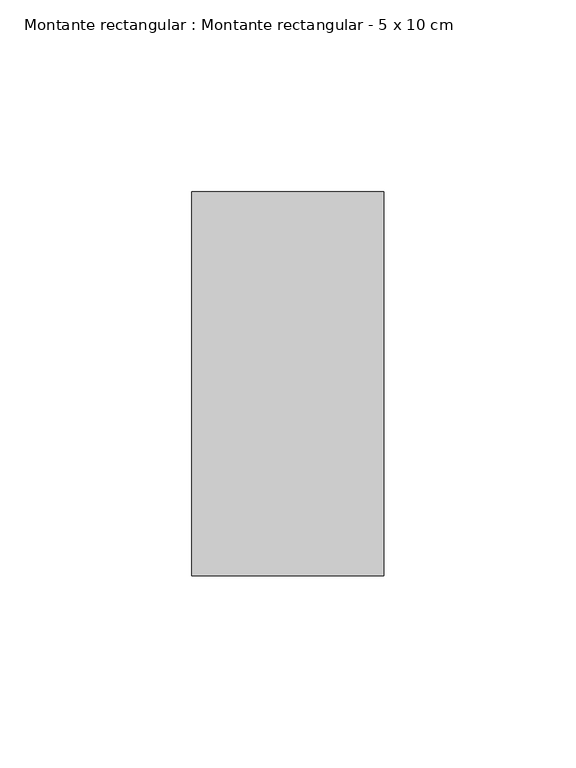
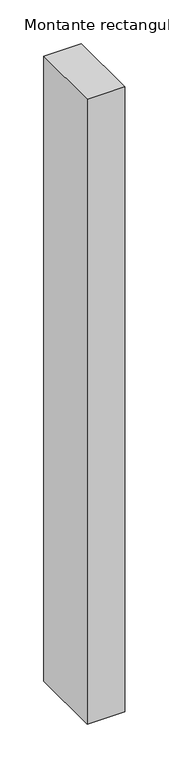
"""IFC4 building model written with IfcOpenShell, lengths in millimetres: member geometry, Montante rectangular : Montante rectangular - 5 x 10 cm."""

from ifc_helpers import new_model, si_unit, frame, origin, place, context, project, spatial, polyline, outline, extrude, source, transform, mapped, element, save


def montante_rectangular_montante_rectangular_5_x_10_cm_b9b9d68b(model_context):
    return source(origin(), model_context, "Body", "SweptSolid", [
        extrude(outline(polyline([(-50.0, 50.0), (0.0, 50.0), (0.0, -50.0), (-50.0, -50.0), (-50.0, 50.0)])), frame((0.0, 0.0, -875.0), z_axis=(0.0, 0.0, 1.0), x_axis=(1.0, 0.0, 0.0)), (0.0, 0.0, 1.0), 875.0),
    ])


if __name__ == "__main__":
    model = new_model("IFC4")
    model_context = context("Model", 3, world=origin())
    ifc_project = project(units=[si_unit("LENGTHUNIT", "METRE", prefix="MILLI")], contexts=[model_context])
    site = spatial("IfcSite", under=ifc_project)
    building = spatial("IfcBuilding", under=site)
    placement = place(None, origin())
    montante_rectangular_montante_rectangular_5_x_10_cm_shape = montante_rectangular_montante_rectangular_5_x_10_cm_b9b9d68b(model_context)
    element("IfcMember", 1, ObjectType="Montante rectangular : Montante rectangular - 5 x 10 cm", at=placement, inside=building, context=model_context, shape_type="MappedRepresentation", body=[
        mapped(montante_rectangular_montante_rectangular_5_x_10_cm_shape, transform((0.0, 0.0, 0.0), x_axis=(1.0, 0.0, 0.0), y_axis=(0.0, 1.0, 0.0), z_axis=(0.0, 0.0, 1.0))),
    ])
    save(model, "model.ifc")
